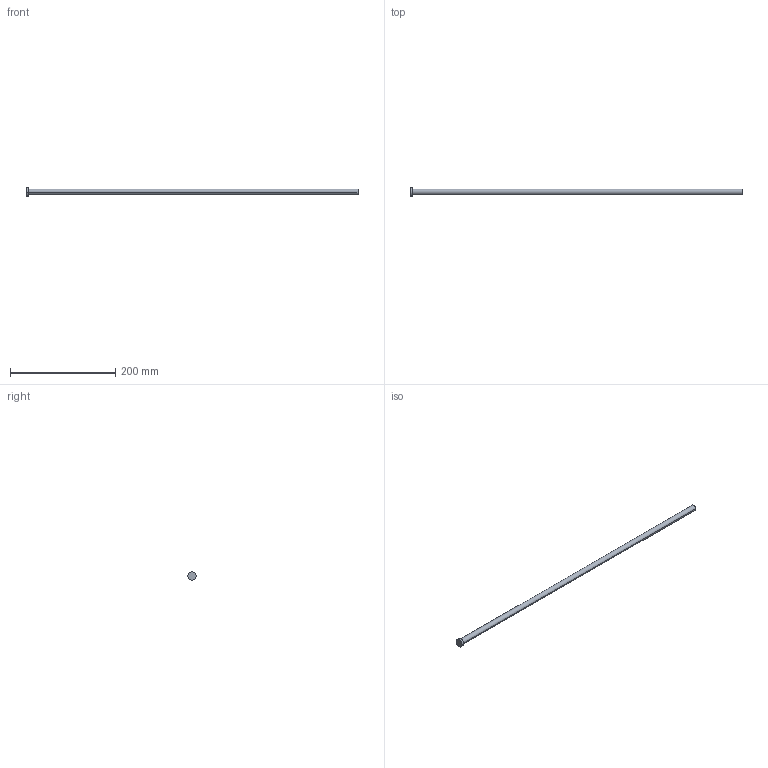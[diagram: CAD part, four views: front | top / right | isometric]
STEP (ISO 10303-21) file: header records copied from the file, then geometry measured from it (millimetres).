
FILE_DESCRIPTION (( 'STEP AP214' ), '1' );
FILE_NAME ('A-11x630.STEP', '2020-05-29T16:06:48', ( 'August' ), ( '' ), 'SwSTEP 2.0', 'SolidWorks 2018', '' );
FILE_SCHEMA (( 'AUTOMOTIVE_DESIGN' ));
Length unit declared in the file: millimetre
Products named in the file (1): A-11x630
Bounding box: 630 x 16 x 16 mm (x, y, z)
Volume: 60402.9 mm3; surface area: 22244.6 mm2
Topology: 1 solids, 1 shells, 9 faces, 16 edges, 10 vertices
Faces by surface type: cylinder 4, plane 3, torus 2
Entity records: 260 total; most frequent: DIRECTION 48, CARTESIAN_POINT 36, ORIENTED_EDGE 32, AXIS2_PLACEMENT_3D 22, EDGE_CURVE 16, CIRCLE 12, EDGE_LOOP 10, VERTEX_POINT 10
